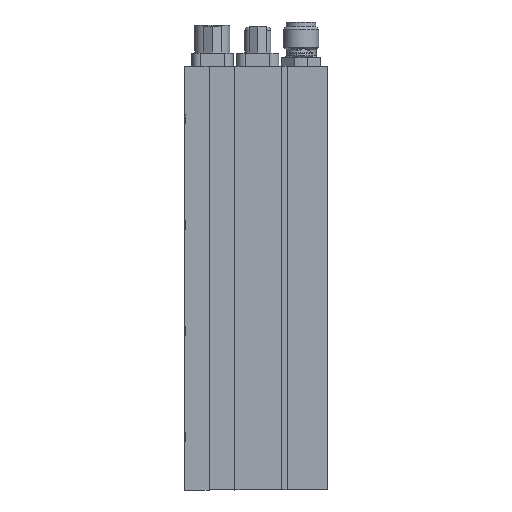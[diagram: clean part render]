
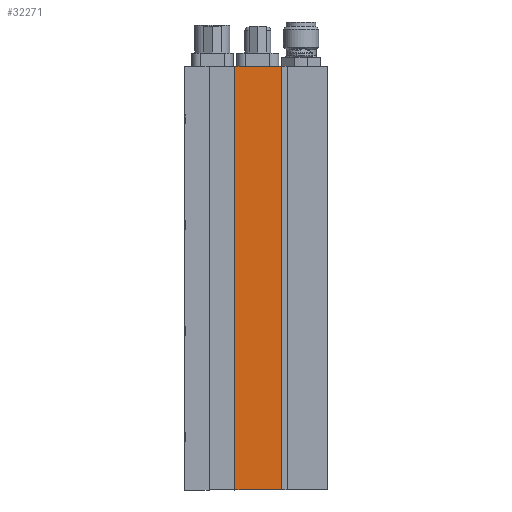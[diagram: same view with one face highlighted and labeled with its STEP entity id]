
A CAD part, left-side view. The second image highlights one B-rep face of the part: STEP entity #32271.
In plain terms, the highlighted planar face has unit normal (-1, 0, 0).
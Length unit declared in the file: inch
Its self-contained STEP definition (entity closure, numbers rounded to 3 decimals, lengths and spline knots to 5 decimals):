
#1877 = ORIENTED_EDGE ( 'NONE', *, *, #31749, .T. ) ;
#1878 = ORIENTED_EDGE ( 'NONE', *, *, #31851, .F. ) ;
#1879 = ORIENTED_EDGE ( 'NONE', *, *, #31758, .F. ) ;
#4636 = LINE ( 'NONE', #30059, #4640 ) ;
#4640 = VECTOR ( 'NONE', #30066, 39.37008 ) ;
#4651 = LINE ( 'NONE', #30095, #4654 ) ;
#4654 = VECTOR ( 'NONE', #30096, 39.37008 ) ;
#4788 = LINE ( 'NONE', #30490, #4791 ) ;
#4791 = VECTOR ( 'NONE', #30493, 39.37008 ) ;
#4793 = LINE ( 'NONE', #30506, #4797 ) ;
#4797 = VECTOR ( 'NONE', #30509, 39.37008 ) ;
#8133 = FACE_OUTER_BOUND ( 'NONE', #30731, .T. ) ;
#15745 = VERTEX_POINT ( 'NONE', #24022 ) ;
#15850 = VERTEX_POINT ( 'NONE', #24127 ) ;
#17786 = VERTEX_POINT ( 'NONE', #24407 ) ;
#17923 = VERTEX_POINT ( 'NONE', #24541 ) ;
#21828 = AXIS2_PLACEMENT_3D ( 'NONE', #25413, #25423, #25425 ) ;
#24022 = CARTESIAN_POINT ( 'NONE',  ( -1.24135, 0.35071, -1.26272 ) ) ;
#24127 = CARTESIAN_POINT ( 'NONE',  ( -1.24135, 0.02071, 1.73728 ) ) ;
#24407 = CARTESIAN_POINT ( 'NONE',  ( -1.24135, 0.02071, -1.26272 ) ) ;
#24541 = CARTESIAN_POINT ( 'NONE',  ( -1.24135, 0.35071, 1.73728 ) ) ;
#25413 = CARTESIAN_POINT ( 'NONE',  ( -1.24135, 0.35071, -1.26272 ) ) ;
#25418 = PLANE ( 'NONE',  #21828 ) ;
#25423 = DIRECTION ( 'NONE',  ( 1., 0., 0. ) ) ;
#25425 = DIRECTION ( 'NONE',  ( 0., 0., -1. ) ) ;
#30059 = CARTESIAN_POINT ( 'NONE',  ( -1.24135, 0.35071, -1.26272 ) ) ;
#30066 = DIRECTION ( 'NONE',  ( 0., -1., 0. ) ) ;
#30095 = CARTESIAN_POINT ( 'NONE',  ( -1.24135, 0.35071, -1.26272 ) ) ;
#30096 = DIRECTION ( 'NONE',  ( 0., 0., 1. ) ) ;
#30490 = CARTESIAN_POINT ( 'NONE',  ( -1.24135, 0.02071, -1.26272 ) ) ;
#30493 = DIRECTION ( 'NONE',  ( 0., 0., 1. ) ) ;
#30506 = CARTESIAN_POINT ( 'NONE',  ( -1.24135, 0.35071, 1.73728 ) ) ;
#30509 = DIRECTION ( 'NONE',  ( 0., -1., 0. ) ) ;
#30731 = EDGE_LOOP ( 'NONE', ( #30934, #1878, #1879, #1877 ) ) ;
#30934 = ORIENTED_EDGE ( 'NONE', *, *, #31848, .T. ) ;
#31749 = EDGE_CURVE ( 'NONE', #15745, #17786, #4636, .T. ) ;
#31758 = EDGE_CURVE ( 'NONE', #15745, #17923, #4651, .T. ) ;
#31848 = EDGE_CURVE ( 'NONE', #17786, #15850, #4788, .T. ) ;
#31851 = EDGE_CURVE ( 'NONE', #17923, #15850, #4793, .T. ) ;
#32271 = ADVANCED_FACE ( 'NONE', ( #8133 ), #25418, .F. ) ;
